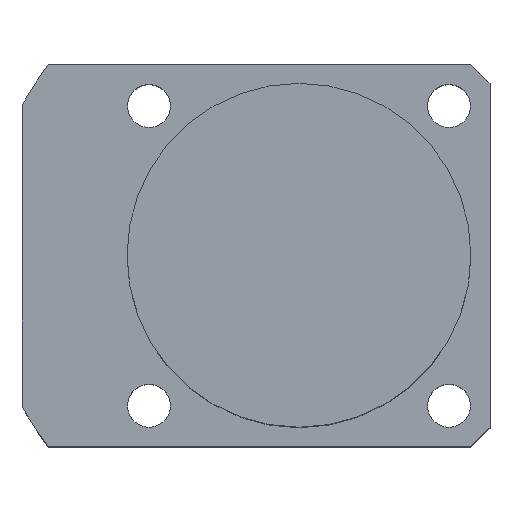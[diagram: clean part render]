
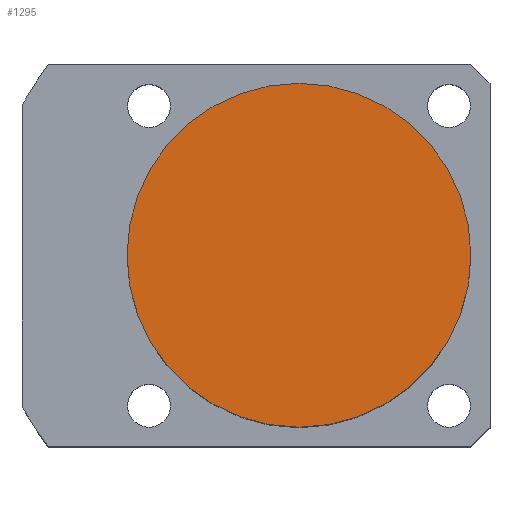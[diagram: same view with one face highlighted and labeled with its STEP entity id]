
A CAD part, top view. The second image highlights one B-rep face of the part: STEP entity #1295.
In plain terms, the highlighted planar face has unit normal (0, 0, 1).
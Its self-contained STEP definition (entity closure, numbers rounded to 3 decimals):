
#2 = CIRCLE ( 'NONE', #1229, 18. ) ;
#97 = DIRECTION ( 'NONE',  ( 0., 0., 1. ) ) ;
#148 = DIRECTION ( 'NONE',  ( 1., 0., 0. ) ) ;
#227 = FACE_OUTER_BOUND ( 'NONE', #1537, .T. ) ;
#233 = VERTEX_POINT ( 'NONE', #325 ) ;
#273 = VERTEX_POINT ( 'NONE', #638 ) ;
#325 = CARTESIAN_POINT ( 'NONE',  ( 18., 0., 43.5 ) ) ;
#548 = AXIS2_PLACEMENT_3D ( 'NONE', #846, #683, #981 ) ;
#638 = CARTESIAN_POINT ( 'NONE',  ( -18., 0., 43.5 ) ) ;
#674 = PLANE ( 'NONE',  #548 ) ;
#683 = DIRECTION ( 'NONE',  ( 0., 0., 1. ) ) ;
#707 = CARTESIAN_POINT ( 'NONE',  ( 0., 0., 43.5 ) ) ;
#722 = ORIENTED_EDGE ( 'NONE', *, *, #1043, .T. ) ;
#751 = CIRCLE ( 'NONE', #1610, 18. ) ;
#846 = CARTESIAN_POINT ( 'NONE',  ( 0., 0., 43.5 ) ) ;
#981 = DIRECTION ( 'NONE',  ( 1., 0., 0. ) ) ;
#1043 = EDGE_CURVE ( 'NONE', #233, #273, #2, .T. ) ;
#1229 = AXIS2_PLACEMENT_3D ( 'NONE', #707, #1576, #148 ) ;
#1295 = ADVANCED_FACE ( 'NONE', ( #227 ), #674, .T. ) ;
#1537 = EDGE_LOOP ( 'NONE', ( #1600, #722 ) ) ;
#1576 = DIRECTION ( 'NONE',  ( 0., 0., 1. ) ) ;
#1600 = ORIENTED_EDGE ( 'NONE', *, *, #1778, .T. ) ;
#1610 = AXIS2_PLACEMENT_3D ( 'NONE', #1903, #97, #1761 ) ;
#1761 = DIRECTION ( 'NONE',  ( 1., 0., 0. ) ) ;
#1778 = EDGE_CURVE ( 'NONE', #273, #233, #751, .T. ) ;
#1903 = CARTESIAN_POINT ( 'NONE',  ( 0., 0., 43.5 ) ) ;
